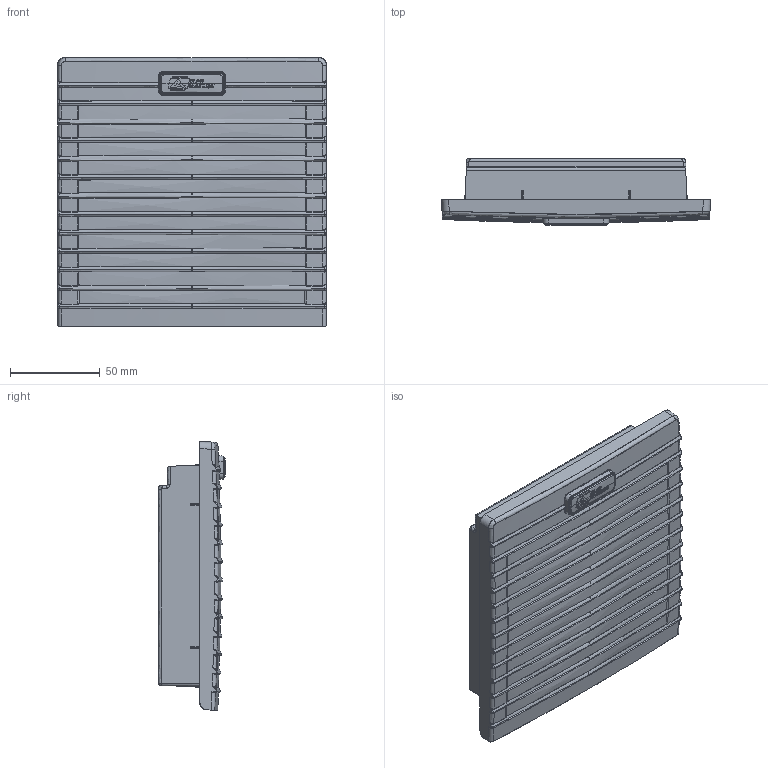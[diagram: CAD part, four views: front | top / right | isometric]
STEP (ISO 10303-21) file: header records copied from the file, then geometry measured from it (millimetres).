
FILE_DESCRIPTION(/* description */ (''),/* implementation_level */ '2;1');
FILE_NAME(/* name */ 'ATV200~1',/* time_stamp */ '2019-02-07T17:00:06+01:00',/* author */ (''),/* organization */ (''),/* preprocessor_version */ 'ST-DEVELOPER v16.5',/* originating_system */ '',/* authorisation */ '');
FILE_SCHEMA (('AUTOMOTIVE_DESIGN'));
Products named in the file (1): Document
Bounding box: 150 x 37.5 x 150 mm (x, y, z)
Surface area: 130830.6 mm2 (no closed solid volume)
Topology: 0 solids, 1994 shells, 2007 faces, 9605 edges, 9482 vertices
Faces by surface type: bspline 1691, plane 316
Entity records: 170912 total; most frequent: CARTESIAN_POINT 120477, ORIENTED_EDGE 9525, EDGE_CURVE 9499, VERTEX_POINT 9483, B_SPLINE_CURVE_WITH_KNOTS 7813, EDGE_LOOP 2036, ADVANCED_FACE 2007, FACE_OUTER_BOUND 2007
